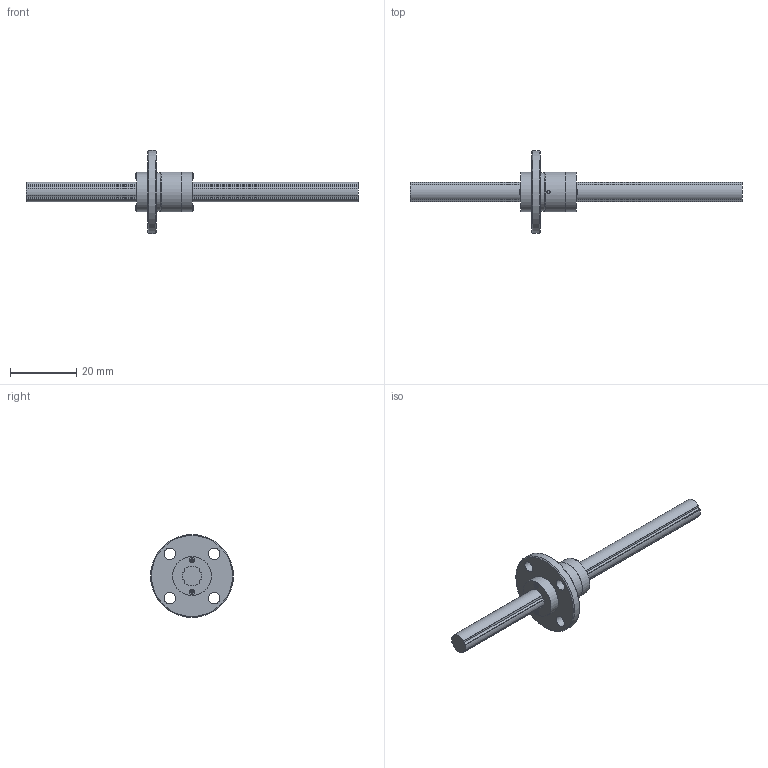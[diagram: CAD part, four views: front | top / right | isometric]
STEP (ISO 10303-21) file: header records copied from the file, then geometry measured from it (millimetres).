
FILE_DESCRIPTION(/* description */ ('STEP AP214'),/* implementation_level */ '2;1');
FILE_NAME(/* name */ 'LF6X+100L(00)',/* time_stamp */ '2024-09-05T14:42:57+02:00',/* author */ ('License CC BY-ND 4.0'),/* organization */ ('CADENAS'),/* preprocessor_version */ 'ST-DEVELOPER v19.3',/* originating_system */ 'PARTsolutions',/* authorisation */ ' ');
FILE_SCHEMA (('AUTOMOTIVE_DESIGN {1 0 10303 214 3 1 1}'));
Length unit declared in the file: millimetre
Products named in the file (3): LF6X+100L(00); 1LT6X 100Shaft; 1LF6X Cylindar
Assembly tree (2 placements, depth 2):
  LF6X+100L(00)
    1LT6X 100Shaft
    1LF6X Cylindar
Bounding box: 100 x 25 x 25 mm (x, y, z)
Volume: 5034.9 mm3; surface area: 4002 mm2
Topology: 2 solids, 2 shells, 121 faces, 323 edges, 215 vertices
Faces by surface type: plane 70, cylinder 47, cone 4
Full cylindrical faces by diameter (mm): 1 x2, 1.6 x4, 3.4 x4, 11.7 x1, 11.8 x2, 12 x1, 25 x1
Entity records: 3753 total; most frequent: CARTESIAN_POINT 668, DIRECTION 632, ORIENTED_EDGE 592, EDGE_CURVE 296, AXIS2_PLACEMENT_3D 216, VERTEX_POINT 208, LINE 200, VECTOR 200
